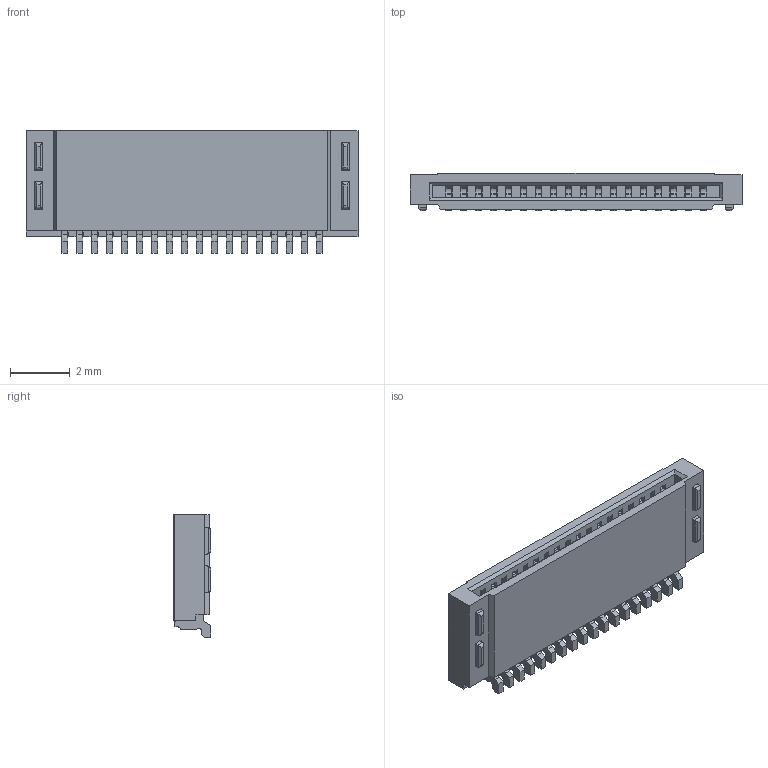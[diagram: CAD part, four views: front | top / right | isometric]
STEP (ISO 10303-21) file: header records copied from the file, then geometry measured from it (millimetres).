
FILE_DESCRIPTION((''),'2;1');
FILE_NAME('20250306-FB006-18P_ASM_ASM','2026-07-15T',('PMT1 SFT'),(''),'PRO/ENGINEER BY PARAMETRIC TECHNOLOGY CORPORATION, 2011490','PRO/ENGINEER BY PARAMETRIC TECHNOLOGY CORPORATION, 2011490','');
FILE_SCHEMA(('CONFIG_CONTROL_DESIGN'));
Length unit declared in the file: millimetre
Products named in the file (6): FB006-18P-HOUSING_3; FB006-TE-C1_3; FB006-TE-C2_3; FB006-LEG_3; FB006-18P_ASM_3_ASM; 20250306-FB006-18P_ASM_ASM
Assembly tree (22 placements, depth 3):
  20250306-FB006-18P_ASM_ASM
    FB006-18P_ASM_3_ASM
      FB006-18P-HOUSING_3
      FB006-TE-C1_3  x9
      FB006-TE-C2_3  x9
      FB006-LEG_3  x2
Bounding box: 11.1 x 1.24 x 4.1 mm (x, y, z)
Volume: 35.6 mm3; surface area: 364.9 mm2
Topology: 21 solids, 21 shells, 1049 faces, 3236 edges, 2195 vertices
Faces by surface type: plane 748, cylinder 270, extrusion 31
Entity records: 14935 total; most frequent: CARTESIAN_POINT 2956, ORIENTED_EDGE 2616, DIRECTION 2256, EDGE_CURVE 1308, VECTOR 1156, LINE 1125, VERTEX_POINT 863, AXIS2_PLACEMENT_3D 550
